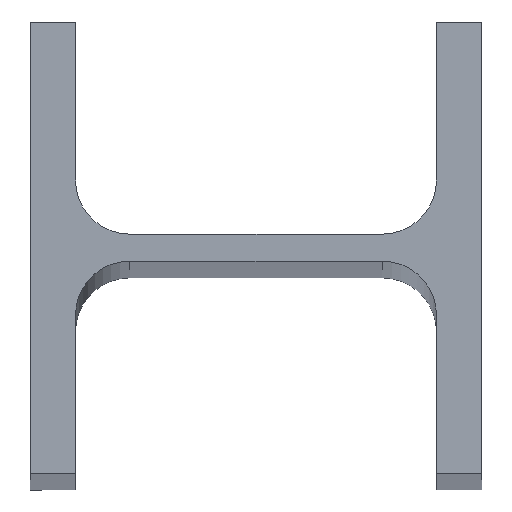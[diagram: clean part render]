
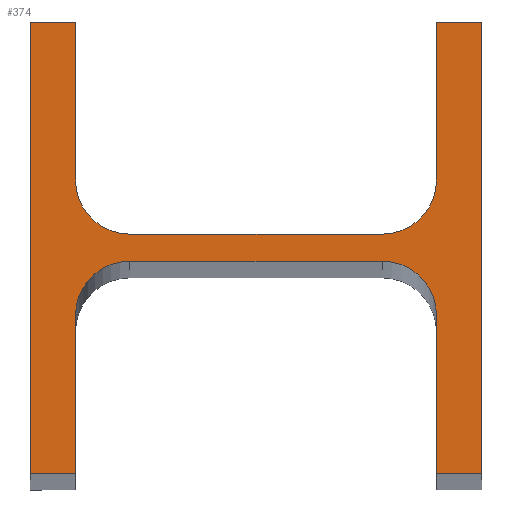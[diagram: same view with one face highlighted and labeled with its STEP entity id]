
A CAD part, top view. The second image highlights one B-rep face of the part: STEP entity #374.
In plain terms, the highlighted planar face has unit normal (0, 0, 1).
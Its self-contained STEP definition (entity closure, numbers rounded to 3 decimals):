
#16 = LINE ( 'NONE', #2283, #1650 ) ;
#29 = DIRECTION ( 'NONE',  ( 0., -1., 0. ) ) ;
#30 = DIRECTION ( 'NONE',  ( 1., 0., 0. ) ) ;
#39 = CARTESIAN_POINT ( 'NONE',  ( -28., -15., 2130. ) ) ;
#46 = CARTESIAN_POINT ( 'NONE',  ( -28., 3., 2130. ) ) ;
#52 = ORIENTED_EDGE ( 'NONE', *, *, #2898, .F. ) ;
#102 = LINE ( 'NONE', #2075, #1231 ) ;
#123 = EDGE_CURVE ( 'NONE', #1675, #196, #1590, .T. ) ;
#148 = VECTOR ( 'NONE', #890, 1000. ) ;
#172 = ORIENTED_EDGE ( 'NONE', *, *, #2176, .F. ) ;
#182 = EDGE_CURVE ( 'NONE', #502, #3084, #102, .T. ) ;
#196 = VERTEX_POINT ( 'NONE', #843 ) ;
#198 = LINE ( 'NONE', #1513, #2876 ) ;
#200 = EDGE_LOOP ( 'NONE', ( #1931, #2031, #1149, #702, #396, #266, #1099, #52, #2272, #2358, #2589, #690, #2871, #792, #2341, #172 ) ) ;
#211 = VECTOR ( 'NONE', #1748, 1000. ) ;
#233 = DIRECTION ( 'NONE',  ( -1., 0., 0. ) ) ;
#266 = ORIENTED_EDGE ( 'NONE', *, *, #295, .F. ) ;
#295 = EDGE_CURVE ( 'NONE', #2673, #1991, #1682, .T. ) ;
#374 = ADVANCED_FACE ( 'NONE', ( #2713 ), #2013, .F. ) ;
#386 = CARTESIAN_POINT ( 'NONE',  ( 28., 15., 2130. ) ) ;
#396 = ORIENTED_EDGE ( 'NONE', *, *, #2214, .F. ) ;
#457 = CARTESIAN_POINT ( 'NONE',  ( 50., -50., 2130. ) ) ;
#466 = AXIS2_PLACEMENT_3D ( 'NONE', #39, #477, #1454 ) ;
#477 = DIRECTION ( 'NONE',  ( 0., 0., 1. ) ) ;
#499 = EDGE_CURVE ( 'NONE', #947, #2281, #16, .T. ) ;
#502 = VERTEX_POINT ( 'NONE', #1054 ) ;
#549 = VERTEX_POINT ( 'NONE', #2499 ) ;
#556 = AXIS2_PLACEMENT_3D ( 'NONE', #1273, #1221, #2987 ) ;
#618 = VECTOR ( 'NONE', #29, 1000. ) ;
#619 = CIRCLE ( 'NONE', #466, 12. ) ;
#671 = VERTEX_POINT ( 'NONE', #2790 ) ;
#690 = ORIENTED_EDGE ( 'NONE', *, *, #2306, .F. ) ;
#693 = CARTESIAN_POINT ( 'NONE',  ( 40., 50., 2130. ) ) ;
#702 = ORIENTED_EDGE ( 'NONE', *, *, #2658, .F. ) ;
#748 = CARTESIAN_POINT ( 'NONE',  ( 40., 50., 2130. ) ) ;
#792 = ORIENTED_EDGE ( 'NONE', *, *, #3031, .F. ) ;
#818 = AXIS2_PLACEMENT_3D ( 'NONE', #1238, #1451, #233 ) ;
#843 = CARTESIAN_POINT ( 'NONE',  ( -40., 15., 2130. ) ) ;
#890 = DIRECTION ( 'NONE',  ( 0., -1., 0. ) ) ;
#947 = VERTEX_POINT ( 'NONE', #46 ) ;
#1010 = CARTESIAN_POINT ( 'NONE',  ( -40., -50., 2130. ) ) ;
#1022 = CARTESIAN_POINT ( 'NONE',  ( -50., 50., 2130. ) ) ;
#1054 = CARTESIAN_POINT ( 'NONE',  ( -50., -50., 2130. ) ) ;
#1081 = AXIS2_PLACEMENT_3D ( 'NONE', #386, #2850, #2619 ) ;
#1088 = CARTESIAN_POINT ( 'NONE',  ( -50., 50., 2130. ) ) ;
#1097 = LINE ( 'NONE', #3092, #148 ) ;
#1099 = ORIENTED_EDGE ( 'NONE', *, *, #3070, .F. ) ;
#1139 = VERTEX_POINT ( 'NONE', #2095 ) ;
#1149 = ORIENTED_EDGE ( 'NONE', *, *, #2266, .F. ) ;
#1162 = CARTESIAN_POINT ( 'NONE',  ( 40., -15., 2130. ) ) ;
#1221 = DIRECTION ( 'NONE',  ( 0., 0., -1. ) ) ;
#1231 = VECTOR ( 'NONE', #3052, 1000. ) ;
#1238 = CARTESIAN_POINT ( 'NONE',  ( 28., -15., 2130. ) ) ;
#1246 = LINE ( 'NONE', #2700, #211 ) ;
#1273 = CARTESIAN_POINT ( 'NONE',  ( -42., 35., 2130. ) ) ;
#1288 = LINE ( 'NONE', #2743, #618 ) ;
#1296 = VERTEX_POINT ( 'NONE', #1895 ) ;
#1316 = EDGE_CURVE ( 'NONE', #3044, #2182, #198, .T. ) ;
#1344 = EDGE_CURVE ( 'NONE', #1296, #549, #619, .T. ) ;
#1347 = DIRECTION ( 'NONE',  ( -1., 0., 0. ) ) ;
#1432 = VECTOR ( 'NONE', #1571, 1000. ) ;
#1451 = DIRECTION ( 'NONE',  ( 0., 0., 1. ) ) ;
#1454 = DIRECTION ( 'NONE',  ( -1., 0., 0. ) ) ;
#1513 = CARTESIAN_POINT ( 'NONE',  ( 40., 15., 2130. ) ) ;
#1552 = DIRECTION ( 'NONE',  ( 1., 0., 0. ) ) ;
#1571 = DIRECTION ( 'NONE',  ( 0., -1., 0. ) ) ;
#1590 = LINE ( 'NONE', #1818, #1432 ) ;
#1606 = VERTEX_POINT ( 'NONE', #1162 ) ;
#1617 = LINE ( 'NONE', #1010, #1744 ) ;
#1650 = VECTOR ( 'NONE', #30, 1000. ) ;
#1675 = VERTEX_POINT ( 'NONE', #1693 ) ;
#1682 = LINE ( 'NONE', #457, #2107 ) ;
#1693 = CARTESIAN_POINT ( 'NONE',  ( -40., 50., 2130. ) ) ;
#1739 = DIRECTION ( 'NONE',  ( 0., 1., 0. ) ) ;
#1744 = VECTOR ( 'NONE', #2457, 1000. ) ;
#1748 = DIRECTION ( 'NONE',  ( 0., 1., 0. ) ) ;
#1799 = AXIS2_PLACEMENT_3D ( 'NONE', #3004, #3036, #1347 ) ;
#1818 = CARTESIAN_POINT ( 'NONE',  ( -40., 50., 2130. ) ) ;
#1892 = DIRECTION ( 'NONE',  ( -1., 0., 0. ) ) ;
#1895 = CARTESIAN_POINT ( 'NONE',  ( -28., -3., 2130. ) ) ;
#1931 = ORIENTED_EDGE ( 'NONE', *, *, #2715, .F. ) ;
#1961 = VECTOR ( 'NONE', #2253, 1000. ) ;
#1973 = CARTESIAN_POINT ( 'NONE',  ( 50., -50., 2130. ) ) ;
#1991 = VERTEX_POINT ( 'NONE', #3041 ) ;
#1997 = LINE ( 'NONE', #2490, #1961 ) ;
#2006 = VECTOR ( 'NONE', #3068, 1000. ) ;
#2013 = PLANE ( 'NONE',  #556 ) ;
#2031 = ORIENTED_EDGE ( 'NONE', *, *, #1344, .F. ) ;
#2071 = CARTESIAN_POINT ( 'NONE',  ( 40., 15., 2130. ) ) ;
#2075 = CARTESIAN_POINT ( 'NONE',  ( -50., -50., 2130. ) ) ;
#2095 = CARTESIAN_POINT ( 'NONE',  ( 50., 50., 2130. ) ) ;
#2107 = VECTOR ( 'NONE', #1892, 1000. ) ;
#2109 = VECTOR ( 'NONE', #1552, 1000. ) ;
#2176 = EDGE_CURVE ( 'NONE', #671, #502, #1617, .T. ) ;
#2182 = VERTEX_POINT ( 'NONE', #748 ) ;
#2214 = EDGE_CURVE ( 'NONE', #1991, #1606, #1246, .T. ) ;
#2253 = DIRECTION ( 'NONE',  ( -1., 0., 0. ) ) ;
#2266 = EDGE_CURVE ( 'NONE', #3118, #1296, #1997, .T. ) ;
#2272 = ORIENTED_EDGE ( 'NONE', *, *, #1316, .F. ) ;
#2281 = VERTEX_POINT ( 'NONE', #2989 ) ;
#2283 = CARTESIAN_POINT ( 'NONE',  ( -28., 3., 2130. ) ) ;
#2306 = EDGE_CURVE ( 'NONE', #196, #947, #2374, .T. ) ;
#2341 = ORIENTED_EDGE ( 'NONE', *, *, #182, .F. ) ;
#2358 = ORIENTED_EDGE ( 'NONE', *, *, #2412, .F. ) ;
#2374 = CIRCLE ( 'NONE', #1799, 12. ) ;
#2412 = EDGE_CURVE ( 'NONE', #2281, #3044, #2470, .T. ) ;
#2457 = DIRECTION ( 'NONE',  ( -1., 0., 0. ) ) ;
#2470 = CIRCLE ( 'NONE', #1081, 12. ) ;
#2490 = CARTESIAN_POINT ( 'NONE',  ( 28., -3., 2130. ) ) ;
#2499 = CARTESIAN_POINT ( 'NONE',  ( -40., -15., 2130. ) ) ;
#2589 = ORIENTED_EDGE ( 'NONE', *, *, #499, .F. ) ;
#2619 = DIRECTION ( 'NONE',  ( -1., 0., 0. ) ) ;
#2658 = EDGE_CURVE ( 'NONE', #1606, #3118, #2924, .T. ) ;
#2673 = VERTEX_POINT ( 'NONE', #1973 ) ;
#2700 = CARTESIAN_POINT ( 'NONE',  ( 40., -50., 2130. ) ) ;
#2713 = FACE_OUTER_BOUND ( 'NONE', #200, .T. ) ;
#2715 = EDGE_CURVE ( 'NONE', #549, #671, #1097, .T. ) ;
#2743 = CARTESIAN_POINT ( 'NONE',  ( 50., 50., 2130. ) ) ;
#2790 = CARTESIAN_POINT ( 'NONE',  ( -40., -50., 2130. ) ) ;
#2808 = CARTESIAN_POINT ( 'NONE',  ( 28., -3., 2130. ) ) ;
#2850 = DIRECTION ( 'NONE',  ( 0., 0., 1. ) ) ;
#2871 = ORIENTED_EDGE ( 'NONE', *, *, #123, .F. ) ;
#2876 = VECTOR ( 'NONE', #1739, 1000. ) ;
#2898 = EDGE_CURVE ( 'NONE', #2182, #1139, #3051, .T. ) ;
#2924 = CIRCLE ( 'NONE', #818, 12. ) ;
#2987 = DIRECTION ( 'NONE',  ( -1., 0., 0. ) ) ;
#2989 = CARTESIAN_POINT ( 'NONE',  ( 28., 3., 2130. ) ) ;
#3004 = CARTESIAN_POINT ( 'NONE',  ( -28., 15., 2130. ) ) ;
#3031 = EDGE_CURVE ( 'NONE', #3084, #1675, #3048, .T. ) ;
#3036 = DIRECTION ( 'NONE',  ( 0., 0., 1. ) ) ;
#3041 = CARTESIAN_POINT ( 'NONE',  ( 40., -50., 2130. ) ) ;
#3044 = VERTEX_POINT ( 'NONE', #2071 ) ;
#3048 = LINE ( 'NONE', #1088, #2109 ) ;
#3051 = LINE ( 'NONE', #693, #2006 ) ;
#3052 = DIRECTION ( 'NONE',  ( 0., 1., 0. ) ) ;
#3068 = DIRECTION ( 'NONE',  ( 1., 0., 0. ) ) ;
#3070 = EDGE_CURVE ( 'NONE', #1139, #2673, #1288, .T. ) ;
#3084 = VERTEX_POINT ( 'NONE', #1022 ) ;
#3092 = CARTESIAN_POINT ( 'NONE',  ( -40., -15., 2130. ) ) ;
#3118 = VERTEX_POINT ( 'NONE', #2808 ) ;
